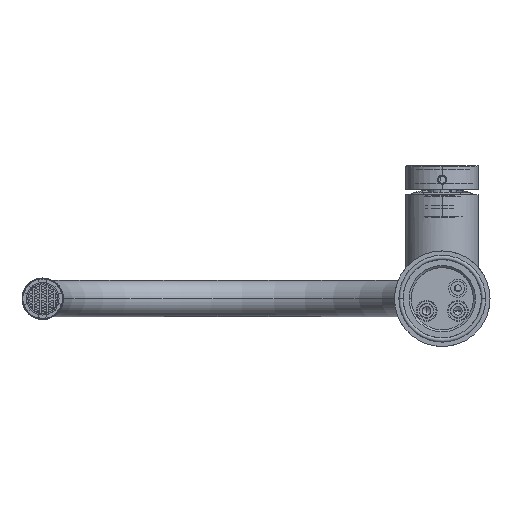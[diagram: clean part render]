
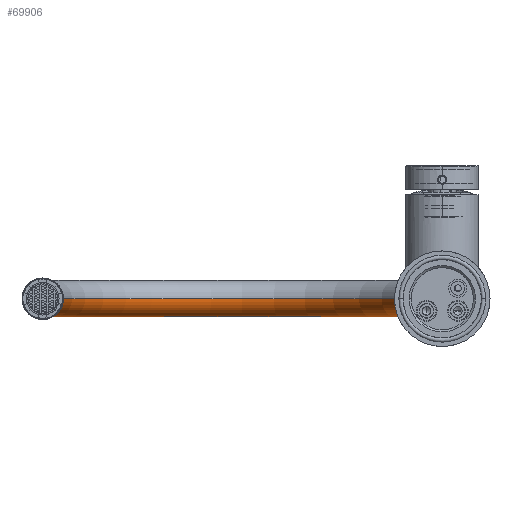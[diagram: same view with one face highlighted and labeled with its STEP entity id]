
A CAD part, front view. The second image highlights one B-rep face of the part: STEP entity #69906.
In plain terms, the highlighted toroidal (fillet/blend) face has major radius 115 mm and minor radius 10.5 mm.
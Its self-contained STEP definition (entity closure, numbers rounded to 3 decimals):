
#69707=CARTESIAN_POINT('',(0.,417.491,-115.));
#69708=DIRECTION('',(-1.,0.,0.));
#69709=DIRECTION('',(0.,0.,1.));
#69710=AXIS2_PLACEMENT_3D('',#69707,#69708,#69709);
#69712=CARTESIAN_POINT('',(0.,417.491,-230.));
#69713=DIRECTION('',(0.,-1.,0.));
#69714=DIRECTION('',(0.,0.,-1.));
#69715=AXIS2_PLACEMENT_3D('',#69712,#69713,#69714);
#69717=CARTESIAN_POINT('',(0.,417.491,0.));
#69718=DIRECTION('',(0.,-1.,0.));
#69719=DIRECTION('',(0.,0.,-1.));
#69720=AXIS2_PLACEMENT_3D('',#69717,#69718,#69719);
#69722=CARTESIAN_POINT('',(0.,417.491,-115.));
#69723=DIRECTION('',(-1.,0.,0.));
#69724=DIRECTION('',(0.,0.,1.));
#69725=AXIS2_PLACEMENT_3D('',#69722,#69723,#69724);
#69809=CARTESIAN_POINT('',(0.,417.491,-219.5));
#69810=VERTEX_POINT('',#69809);
#69811=CARTESIAN_POINT('',(0.,417.491,-240.5));
#69812=VERTEX_POINT('',#69811);
#69813=CARTESIAN_POINT('',(0.,417.491,10.5));
#69814=VERTEX_POINT('',#69813);
#69815=CARTESIAN_POINT('',(0.,417.491,-10.5));
#69816=VERTEX_POINT('',#69815);
#69894=CARTESIAN_POINT('',(0.,417.491,-115.));
#69895=DIRECTION('',(1.,0.,0.));
#69896=DIRECTION('',(0.,0.,1.));
#69897=AXIS2_PLACEMENT_3D('',#69894,#69895,#69896);
#69898=TOROIDAL_SURFACE('',#69897,115.,10.5);
#69899=ORIENTED_EDGE('',*,*,#69859,.T.);
#69900=ORIENTED_EDGE('',*,*,#69889,.F.);
#69902=ORIENTED_EDGE('',*,*,#69901,.T.);
#69903=ORIENTED_EDGE('',*,*,#69885,.T.);
#69904=EDGE_LOOP('',(#69899,#69900,#69902,#69903));
#69905=FACE_OUTER_BOUND('',#69904,.F.);
#69711=CIRCLE('',#69710,104.5);
#69716=CIRCLE('',#69715,10.5);
#69721=CIRCLE('',#69720,10.5);
#69726=CIRCLE('',#69725,125.5);
#69859=EDGE_CURVE('',#69812,#69810,#69716,.T.);
#69885=EDGE_CURVE('',#69814,#69812,#69726,.T.);
#69889=EDGE_CURVE('',#69816,#69810,#69711,.T.);
#69901=EDGE_CURVE('',#69816,#69814,#69721,.T.);
#69906=ADVANCED_FACE('',(#69905),#69898,.T.);
